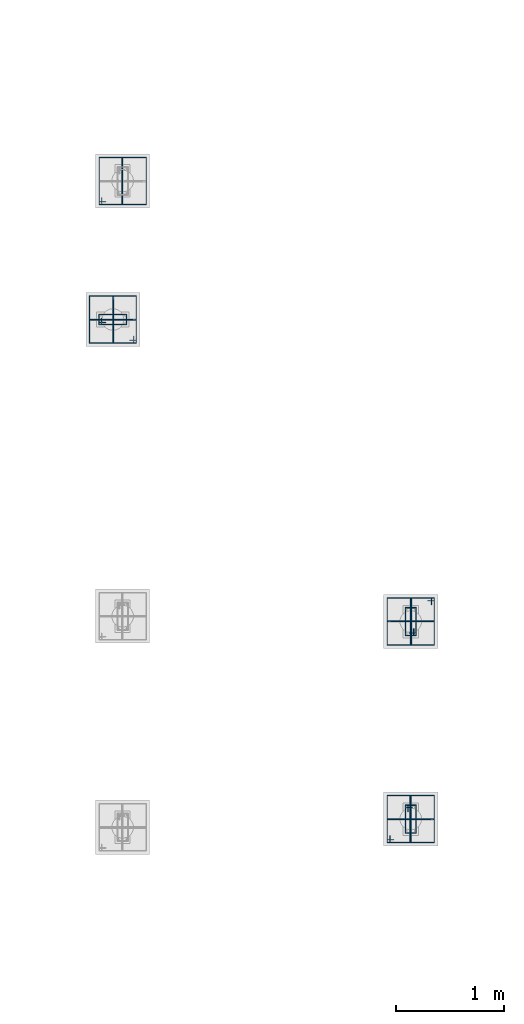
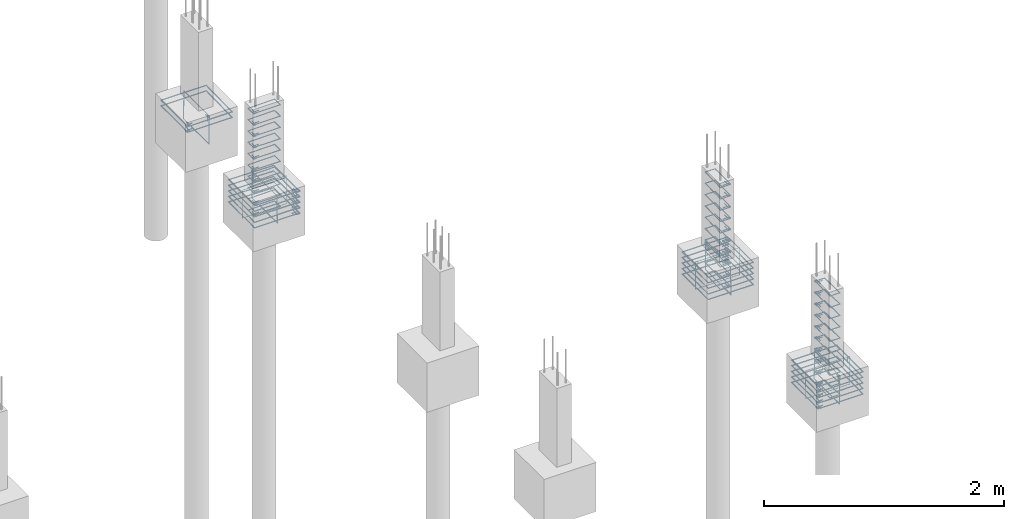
# One storey, part 75 of 119: 54 reinforcing bars.
"""IFC4 building model written with IfcOpenShell, lengths in centimetres."""

from ifc_helpers import new_model, entity, si_unit, derived_unit, frame, origin_with_axes, place, context, project, spatial, source, transform, mapped, element, save


model = new_model("IFC4")

# Units and contexts
model_context = context("Model", 3, precision=1e-05, world=origin_with_axes(), identifier="Body")
ifc_project = project(units=[si_unit("LENGTHUNIT", "METRE", prefix="CENTI"), si_unit("VOLUMEUNIT", "CUBIC_METRE"), si_unit("AREAUNIT", "SQUARE_METRE"), si_unit("POWERUNIT", "WATT"), si_unit("LUMINOUSFLUXUNIT", "LUMEN"), si_unit("ELECTRICCURRENTUNIT", "AMPERE"), si_unit("PRESSUREUNIT", "PASCAL", prefix="KILO"), si_unit("MASSUNIT", "GRAM", prefix="KILO"), si_unit("PLANEANGLEUNIT", "RADIAN"), derived_unit("VOLUMETRICFLOWRATEUNIT", [(si_unit("LENGTHUNIT", "METRE"), 3), (si_unit("TIMEUNIT", "SECOND"), -1)])], contexts=[model_context])

# Site, building, storey
site_placement = place(None, frame((-4000.0, 0.0, 0.0), z_axis=(0.0, 0.0, 1.0), x_axis=(1.0, 0.0, 0.0)))
site = spatial("IfcSite", under=ifc_project, at=site_placement, Name="PADRÃO")
building_placement = place(site_placement, frame((0.0, 0.0, -14.0)))
building = spatial("IfcBuilding", under=site, at=building_placement, Name="CRECHE PRÉ-ESCOLA TIPO 2")
storey_placement = place(building_placement, origin_with_axes())
storey = spatial("IfcBuildingStorey", under=building, at=storey_placement, Name="FUNDAÇÃO", CompositionType="ELEMENT", Elevation=-14.0)

# Reinforcing bars
shared_shape_1 = source(origin_with_axes(), model_context, "Body", "AdvancedSweptSolid", [
    entity("IfcSweptDiskSolid", entity("IfcCompositeCurve", [entity("IfcCompositeCurveSegment", "CONTINUOUS", True, entity("IfcPolyline", [entity("IfcCartesianPoint", [1103.295, 1411.335, 0.0]), entity("IfcCartesianPoint", [1097.035, 1411.335, 0.0])])), entity("IfcCompositeCurveSegment", "CONTINUOUS", True, entity("IfcPolyline", [entity("IfcCartesianPoint", [1097.035, 1411.335, 0.0]), entity("IfcCartesianPoint", [1097.035, 1408.815, 0.0])])), entity("IfcCompositeCurveSegment", "CONTINUOUS", True, entity("IfcPolyline", [entity("IfcCartesianPoint", [1097.035, 1408.815, 0.0]), entity("IfcCartesianPoint", [1140.405, 1408.815, 0.0])])), entity("IfcCompositeCurveSegment", "CONTINUOUS", True, entity("IfcPolyline", [entity("IfcCartesianPoint", [1140.405, 1408.815, 0.0]), entity("IfcCartesianPoint", [1140.405, 1452.185, 0.63])])), entity("IfcCompositeCurveSegment", "CONTINUOUS", True, entity("IfcPolyline", [entity("IfcCartesianPoint", [1140.405, 1452.185, 0.63]), entity("IfcCartesianPoint", [1097.035, 1452.185, 0.63])])), entity("IfcCompositeCurveSegment", "CONTINUOUS", True, entity("IfcPolyline", [entity("IfcCartesianPoint", [1097.035, 1452.185, 0.63]), entity("IfcCartesianPoint", [1097.035, 1408.815, 0.63])])), entity("IfcCompositeCurveSegment", "CONTINUOUS", True, entity("IfcPolyline", [entity("IfcCartesianPoint", [1097.035, 1408.815, 0.63]), entity("IfcCartesianPoint", [1099.555, 1408.815, 0.63])])), entity("IfcCompositeCurveSegment", "CONTINUOUS", True, entity("IfcPolyline", [entity("IfcCartesianPoint", [1099.555, 1408.815, 0.63]), entity("IfcCartesianPoint", [1099.555, 1415.075, 0.63])]))], False), 0.315),
])
for number, where, z_axis, x_axis, name in (
    (1, (0.0, 0.0, -92.225), (0.0, 0.0, 1.0), (1.0, 0.0, 0.0), "P102 - Blocos (estribos)"),
    (2, (0.0, 0.0, -86.575), (0.0, 0.0, 1.0), (1.0, 0.0, 0.0), "P102 - Blocos (estribos)"),
):
    element("IfcReinforcingBar", number, at=place(storey_placement, frame(where, z_axis=z_axis, x_axis=x_axis)), inside=storey, Name=name, BarLength=0.0, CrossSectionArea=3.1172453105e-05, NominalDiameter=0.63, PredefinedType="MAIN", context=model_context, shape_type="MappedRepresentation", body=[
        mapped(shared_shape_1, transform((0.0, 0.0, 0.0), scale=1.0)),
    ])
shared_shape_2 = source(origin_with_axes(), model_context, "Body", "AdvancedSweptSolid", [
    entity("IfcSweptDiskSolid", entity("IfcCompositeCurve", [entity("IfcCompositeCurveSegment", "CONTINUOUS", True, entity("IfcPolyline", [entity("IfcCartesianPoint", [-15.12, -12.0, 0.0]), entity("IfcCartesianPoint", [-21.12, -12.0, 0.0])])), entity("IfcCompositeCurveSegment", "CONTINUOUS", True, entity("IfcPolyline", [entity("IfcCartesianPoint", [-21.12, -12.0, 0.0]), entity("IfcCartesianPoint", [-21.12, -14.0, 0.0])])), entity("IfcCompositeCurveSegment", "CONTINUOUS", True, entity("IfcPolyline", [entity("IfcCartesianPoint", [-21.12, -14.0, 0.0]), entity("IfcCartesianPoint", [21.12, -14.0, 0.0])])), entity("IfcCompositeCurveSegment", "CONTINUOUS", True, entity("IfcPolyline", [entity("IfcCartesianPoint", [21.12, -14.0, 0.0]), entity("IfcCartesianPoint", [21.12, 14.0, 0.5])])), entity("IfcCompositeCurveSegment", "CONTINUOUS", True, entity("IfcPolyline", [entity("IfcCartesianPoint", [21.12, 14.0, 0.5]), entity("IfcCartesianPoint", [-21.12, 14.0, 0.5])])), entity("IfcCompositeCurveSegment", "CONTINUOUS", True, entity("IfcPolyline", [entity("IfcCartesianPoint", [-21.12, 14.0, 0.5]), entity("IfcCartesianPoint", [-21.12, -14.0, 0.5])])), entity("IfcCompositeCurveSegment", "CONTINUOUS", True, entity("IfcPolyline", [entity("IfcCartesianPoint", [-21.12, -14.0, 0.5]), entity("IfcCartesianPoint", [-19.12, -14.0, 0.5])])), entity("IfcCompositeCurveSegment", "CONTINUOUS", True, entity("IfcPolyline", [entity("IfcCartesianPoint", [-19.12, -14.0, 0.5]), entity("IfcCartesianPoint", [-19.12, -8.0, 0.5])]))], False), 0.25),
])
reinforcing_bar_1_placement = place(storey_placement, frame((1118.72, 1430.5, -97.75), z_axis=(-1.0, 0.0, 0.0), x_axis=(0.0, 1.0, 0.0)))
element("IfcReinforcingBar", 3, at=reinforcing_bar_1_placement, inside=storey, Name="P102 - Blocos (estribos)", BarLength=0.0, CrossSectionArea=1.9634954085e-05, NominalDiameter=0.5, PredefinedType="MAIN", context=model_context, shape_type="MappedRepresentation", body=[
    mapped(shared_shape_2, transform((0.0, 0.0, 0.0), scale=1.0)),
])
shared_shape_3 = source(origin_with_axes(), model_context, "Body", "AdvancedSweptSolid", [
    entity("IfcSweptDiskSolid", entity("IfcCompositeCurve", [entity("IfcCompositeCurveSegment", "CONTINUOUS", True, entity("IfcPolyline", [entity("IfcCartesianPoint", [4.25, 21.75, 0.0]), entity("IfcCartesianPoint", [4.25, 27.75, 0.0])])), entity("IfcCompositeCurveSegment", "CONTINUOUS", True, entity("IfcPolyline", [entity("IfcCartesianPoint", [4.25, 27.75, 0.0]), entity("IfcCartesianPoint", [2.25, 27.75, 0.0])])), entity("IfcCompositeCurveSegment", "CONTINUOUS", True, entity("IfcPolyline", [entity("IfcCartesianPoint", [2.25, 27.75, 0.0]), entity("IfcCartesianPoint", [2.25, 2.25, 0.0])])), entity("IfcCompositeCurveSegment", "CONTINUOUS", True, entity("IfcPolyline", [entity("IfcCartesianPoint", [2.25, 2.25, 0.0]), entity("IfcCartesianPoint", [11.75, 2.25, 0.0])])), entity("IfcCompositeCurveSegment", "CONTINUOUS", True, entity("IfcPolyline", [entity("IfcCartesianPoint", [11.75, 2.25, 0.0]), entity("IfcCartesianPoint", [11.75, 27.75, -0.5])])), entity("IfcCompositeCurveSegment", "CONTINUOUS", True, entity("IfcPolyline", [entity("IfcCartesianPoint", [11.75, 27.75, -0.5]), entity("IfcCartesianPoint", [2.25, 27.75, -0.5])])), entity("IfcCompositeCurveSegment", "CONTINUOUS", True, entity("IfcPolyline", [entity("IfcCartesianPoint", [2.25, 27.75, -0.5]), entity("IfcCartesianPoint", [2.25, 25.75, -0.5])])), entity("IfcCompositeCurveSegment", "CONTINUOUS", True, entity("IfcPolyline", [entity("IfcCartesianPoint", [2.25, 25.75, -0.5]), entity("IfcCartesianPoint", [8.25, 25.75, -0.5])]))], False), 0.25),
])
for number, where, z_axis, x_axis, name in (
    (4, (1377.84, 826.1, -28.75), (0.0, 0.0, 1.0), (1.0, 0.0, 0.0), "P127 - Estribo"),
    (5, (1377.84, 826.1, -17.25), (0.0, 0.0, 1.0), (1.0, 0.0, 0.0), "P127 - Estribo"),
    (6, (1377.84, 826.1, -5.75), (0.0, 0.0, 1.0), (1.0, 0.0, 0.0), "P127 - Estribo"),
    (7, (1377.84, 826.1, -109.25), (0.0, 0.0, 1.0), (1.0, 0.0, 0.0), "P127 - Estribo"),
    (8, (1377.84, 826.1, -97.75), (0.0, 0.0, 1.0), (1.0, 0.0, 0.0), "P127 - Estribo"),
    (9, (1377.84, 826.1, -86.25), (0.0, 0.0, 1.0), (1.0, 0.0, 0.0), "P127 - Estribo"),
    (10, (1377.84, 826.1, -74.75), (0.0, 0.0, 1.0), (1.0, 0.0, 0.0), "P127 - Estribo"),
    (11, (1377.84, 826.1, -63.25), (0.0, 0.0, 1.0), (1.0, 0.0, 0.0), "P127 - Estribo"),
    (12, (1377.84, 826.1, -51.75), (0.0, 0.0, 1.0), (1.0, 0.0, 0.0), "P127 - Estribo"),
    (13, (1377.84, 826.1, -40.25), (0.0, 0.0, 1.0), (1.0, 0.0, 0.0), "P127 - Estribo"),
):
    element("IfcReinforcingBar", number, at=place(storey_placement, frame(where, z_axis=z_axis, x_axis=x_axis)), inside=storey, Name=name, BarLength=0.0, CrossSectionArea=1.9634954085e-05, NominalDiameter=0.5, PredefinedType="MAIN", context=model_context, shape_type="MappedRepresentation", body=[
        mapped(shared_shape_3, transform((0.0, 0.0, 0.0), scale=1.0)),
    ])
shared_shape_4 = source(origin_with_axes(), model_context, "Body", "AdvancedSweptSolid", [
    entity("IfcSweptDiskSolid", entity("IfcCompositeCurve", [entity("IfcCompositeCurveSegment", "CONTINUOUS", True, entity("IfcPolyline", [entity("IfcCartesianPoint", [1369.415, 821.935, 0.0]), entity("IfcCartesianPoint", [1363.155, 821.935, 0.0])])), entity("IfcCompositeCurveSegment", "CONTINUOUS", True, entity("IfcPolyline", [entity("IfcCartesianPoint", [1363.155, 821.935, 0.0]), entity("IfcCartesianPoint", [1363.155, 819.415, 0.0])])), entity("IfcCompositeCurveSegment", "CONTINUOUS", True, entity("IfcPolyline", [entity("IfcCartesianPoint", [1363.155, 819.415, 0.0]), entity("IfcCartesianPoint", [1406.525, 819.415, 0.0])])), entity("IfcCompositeCurveSegment", "CONTINUOUS", True, entity("IfcPolyline", [entity("IfcCartesianPoint", [1406.525, 819.415, 0.0]), entity("IfcCartesianPoint", [1406.525, 862.785, 0.63])])), entity("IfcCompositeCurveSegment", "CONTINUOUS", True, entity("IfcPolyline", [entity("IfcCartesianPoint", [1406.525, 862.785, 0.63]), entity("IfcCartesianPoint", [1363.155, 862.785, 0.63])])), entity("IfcCompositeCurveSegment", "CONTINUOUS", True, entity("IfcPolyline", [entity("IfcCartesianPoint", [1363.155, 862.785, 0.63]), entity("IfcCartesianPoint", [1363.155, 819.415, 0.63])])), entity("IfcCompositeCurveSegment", "CONTINUOUS", True, entity("IfcPolyline", [entity("IfcCartesianPoint", [1363.155, 819.415, 0.63]), entity("IfcCartesianPoint", [1365.675, 819.415, 0.63])])), entity("IfcCompositeCurveSegment", "CONTINUOUS", True, entity("IfcPolyline", [entity("IfcCartesianPoint", [1365.675, 819.415, 0.63]), entity("IfcCartesianPoint", [1365.675, 825.675, 0.63])]))], False), 0.315),
])
for number, where, z_axis, x_axis, name in (
    (14, (0.0, 0.0, -103.525), (0.0, 0.0, 1.0), (1.0, 0.0, 0.0), "P127 - Blocos (estribos)"),
    (15, (0.0, 0.0, -109.175), (0.0, 0.0, 1.0), (1.0, 0.0, 0.0), "P127 - Blocos (estribos)"),
    (16, (0.0, 0.0, -86.575), (0.0, 0.0, 1.0), (1.0, 0.0, 0.0), "P127 - Blocos (estribos)"),
    (17, (0.0, 0.0, -92.225), (0.0, 0.0, 1.0), (1.0, 0.0, 0.0), "P127 - Blocos (estribos)"),
    (18, (0.0, 0.0, -97.875), (0.0, 0.0, 1.0), (1.0, 0.0, 0.0), "P127 - Blocos (estribos)"),
):
    element("IfcReinforcingBar", number, at=place(storey_placement, frame(where, z_axis=z_axis, x_axis=x_axis)), inside=storey, Name=name, BarLength=0.0, CrossSectionArea=3.1172453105e-05, NominalDiameter=0.63, PredefinedType="MAIN", context=model_context, shape_type="MappedRepresentation", body=[
        mapped(shared_shape_4, transform((0.0, 0.0, 0.0), scale=1.0)),
    ])
shared_shape_5 = source(origin_with_axes(), model_context, "Body", "AdvancedSweptSolid", [
    entity("IfcSweptDiskSolid", entity("IfcCompositeCurve", [entity("IfcCompositeCurveSegment", "CONTINUOUS", True, entity("IfcPolyline", [entity("IfcCartesianPoint", [-15.12, -12.0, 0.0]), entity("IfcCartesianPoint", [-21.12, -12.0, 0.0])])), entity("IfcCompositeCurveSegment", "CONTINUOUS", True, entity("IfcPolyline", [entity("IfcCartesianPoint", [-21.12, -12.0, 0.0]), entity("IfcCartesianPoint", [-21.12, -14.0, 0.0])])), entity("IfcCompositeCurveSegment", "CONTINUOUS", True, entity("IfcPolyline", [entity("IfcCartesianPoint", [-21.12, -14.0, 0.0]), entity("IfcCartesianPoint", [21.12, -14.0, 0.0])])), entity("IfcCompositeCurveSegment", "CONTINUOUS", True, entity("IfcPolyline", [entity("IfcCartesianPoint", [21.12, -14.0, 0.0]), entity("IfcCartesianPoint", [21.12, 14.0, 0.5])])), entity("IfcCompositeCurveSegment", "CONTINUOUS", True, entity("IfcPolyline", [entity("IfcCartesianPoint", [21.12, 14.0, 0.5]), entity("IfcCartesianPoint", [-21.12, 14.0, 0.5])])), entity("IfcCompositeCurveSegment", "CONTINUOUS", True, entity("IfcPolyline", [entity("IfcCartesianPoint", [-21.12, 14.0, 0.5]), entity("IfcCartesianPoint", [-21.12, -14.0, 0.5])])), entity("IfcCompositeCurveSegment", "CONTINUOUS", True, entity("IfcPolyline", [entity("IfcCartesianPoint", [-21.12, -14.0, 0.5]), entity("IfcCartesianPoint", [-19.12, -14.0, 0.5])])), entity("IfcCompositeCurveSegment", "CONTINUOUS", True, entity("IfcPolyline", [entity("IfcCartesianPoint", [-19.12, -14.0, 0.5]), entity("IfcCartesianPoint", [-19.12, -8.0, 0.5])]))], False), 0.25),
])
reinforcing_bar_2_placement = place(storey_placement, frame((1384.84, 841.1, -97.75), z_axis=(-1.0, 0.0, 0.0), x_axis=(0.0, 1.0, 0.0)))
element("IfcReinforcingBar", 19, at=reinforcing_bar_2_placement, inside=storey, Name="P127 - Blocos (estribos)", BarLength=0.0, CrossSectionArea=1.9634954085e-05, NominalDiameter=0.5, PredefinedType="MAIN", context=model_context, shape_type="MappedRepresentation", body=[
    mapped(shared_shape_5, transform((0.0, 0.0, 0.0), scale=1.0)),
])
shared_shape_6 = source(origin_with_axes(), model_context, "Body", "AdvancedSweptSolid", [
    entity("IfcSweptDiskSolid", entity("IfcCompositeCurve", [entity("IfcCompositeCurveSegment", "CONTINUOUS", True, entity("IfcPolyline", [entity("IfcCartesianPoint", [-15.12, -12.0, 0.0]), entity("IfcCartesianPoint", [-21.12, -12.0, 0.0])])), entity("IfcCompositeCurveSegment", "CONTINUOUS", True, entity("IfcPolyline", [entity("IfcCartesianPoint", [-21.12, -12.0, 0.0]), entity("IfcCartesianPoint", [-21.12, -14.0, 0.0])])), entity("IfcCompositeCurveSegment", "CONTINUOUS", True, entity("IfcPolyline", [entity("IfcCartesianPoint", [-21.12, -14.0, 0.0]), entity("IfcCartesianPoint", [21.12, -14.0, 0.0])])), entity("IfcCompositeCurveSegment", "CONTINUOUS", True, entity("IfcPolyline", [entity("IfcCartesianPoint", [21.12, -14.0, 0.0]), entity("IfcCartesianPoint", [21.12, 14.0, 0.5])])), entity("IfcCompositeCurveSegment", "CONTINUOUS", True, entity("IfcPolyline", [entity("IfcCartesianPoint", [21.12, 14.0, 0.5]), entity("IfcCartesianPoint", [-21.12, 14.0, 0.5])])), entity("IfcCompositeCurveSegment", "CONTINUOUS", True, entity("IfcPolyline", [entity("IfcCartesianPoint", [-21.12, 14.0, 0.5]), entity("IfcCartesianPoint", [-21.12, -14.0, 0.5])])), entity("IfcCompositeCurveSegment", "CONTINUOUS", True, entity("IfcPolyline", [entity("IfcCartesianPoint", [-21.12, -14.0, 0.5]), entity("IfcCartesianPoint", [-19.12, -14.0, 0.5])])), entity("IfcCompositeCurveSegment", "CONTINUOUS", True, entity("IfcPolyline", [entity("IfcCartesianPoint", [-19.12, -14.0, 0.5]), entity("IfcCartesianPoint", [-19.12, -8.0, 0.5])]))], False), 0.25),
])
reinforcing_bar_3_placement = place(storey_placement, frame((1384.84, 841.1, -97.75), z_axis=(0.0, -1.0, 0.0), x_axis=(-1.0, 0.0, 0.0)))
element("IfcReinforcingBar", 20, at=reinforcing_bar_3_placement, inside=storey, Name="P127 - Blocos (estribos)", BarLength=0.0, CrossSectionArea=1.9634954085e-05, NominalDiameter=0.5, PredefinedType="MAIN", context=model_context, shape_type="MappedRepresentation", body=[
    mapped(shared_shape_6, transform((0.0, 0.0, 0.0), scale=1.0)),
])
shared_shape_7 = source(origin_with_axes(), model_context, "Body", "AdvancedSweptSolid", [
    entity("IfcSweptDiskSolid", entity("IfcCompositeCurve", [entity("IfcCompositeCurveSegment", "CONTINUOUS", True, entity("IfcPolyline", [entity("IfcCartesianPoint", [4.25, 21.75, 0.0]), entity("IfcCartesianPoint", [4.25, 27.75, 0.0])])), entity("IfcCompositeCurveSegment", "CONTINUOUS", True, entity("IfcPolyline", [entity("IfcCartesianPoint", [4.25, 27.75, 0.0]), entity("IfcCartesianPoint", [2.25, 27.75, 0.0])])), entity("IfcCompositeCurveSegment", "CONTINUOUS", True, entity("IfcPolyline", [entity("IfcCartesianPoint", [2.25, 27.75, 0.0]), entity("IfcCartesianPoint", [2.25, 2.25, 0.0])])), entity("IfcCompositeCurveSegment", "CONTINUOUS", True, entity("IfcPolyline", [entity("IfcCartesianPoint", [2.25, 2.25, 0.0]), entity("IfcCartesianPoint", [11.75, 2.25, 0.0])])), entity("IfcCompositeCurveSegment", "CONTINUOUS", True, entity("IfcPolyline", [entity("IfcCartesianPoint", [11.75, 2.25, 0.0]), entity("IfcCartesianPoint", [11.75, 27.75, -0.5])])), entity("IfcCompositeCurveSegment", "CONTINUOUS", True, entity("IfcPolyline", [entity("IfcCartesianPoint", [11.75, 27.75, -0.5]), entity("IfcCartesianPoint", [2.25, 27.75, -0.5])])), entity("IfcCompositeCurveSegment", "CONTINUOUS", True, entity("IfcPolyline", [entity("IfcCartesianPoint", [2.25, 27.75, -0.5]), entity("IfcCartesianPoint", [2.25, 25.75, -0.5])])), entity("IfcCompositeCurveSegment", "CONTINUOUS", True, entity("IfcPolyline", [entity("IfcCartesianPoint", [2.25, 25.75, -0.5]), entity("IfcCartesianPoint", [8.25, 25.75, -0.5])]))], False), 0.25),
])
for number, where, z_axis, x_axis, name in (
    (21, (1124.72, 1295.5, -28.75), (0.0, 0.0, 1.0), (0.0, 1.0, 0.0), "P109 - Estribo"),
    (22, (1124.72, 1295.5, -17.25), (0.0, 0.0, 1.0), (0.0, 1.0, 0.0), "P109 - Estribo"),
    (23, (1124.72, 1295.5, -5.75), (0.0, 0.0, 1.0), (0.0, 1.0, 0.0), "P109 - Estribo"),
    (24, (1124.72, 1295.5, -109.25), (0.0, 0.0, 1.0), (0.0, 1.0, 0.0), "P109 - Estribo"),
    (25, (1124.72, 1295.5, -74.75), (0.0, 0.0, 1.0), (0.0, 1.0, 0.0), "P109 - Estribo"),
    (26, (1124.72, 1295.5, -40.25), (0.0, 0.0, 1.0), (0.0, 1.0, 0.0), "P109 - Estribo"),
    (27, (1124.72, 1295.5, -63.25), (0.0, 0.0, 1.0), (0.0, 1.0, 0.0), "P109 - Estribo"),
    (28, (1124.72, 1295.5, -51.75), (0.0, 0.0, 1.0), (0.0, 1.0, 0.0), "P109 - Estribo"),
    (29, (1124.72, 1295.5, -97.75), (0.0, 0.0, 1.0), (0.0, 1.0, 0.0), "P109 - Estribo"),
    (30, (1124.72, 1295.5, -86.25), (0.0, 0.0, 1.0), (0.0, 1.0, 0.0), "P109 - Estribo"),
):
    element("IfcReinforcingBar", number, at=place(storey_placement, frame(where, z_axis=z_axis, x_axis=x_axis)), inside=storey, Name=name, BarLength=0.0, CrossSectionArea=1.9634954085e-05, NominalDiameter=0.5, PredefinedType="MAIN", context=model_context, shape_type="MappedRepresentation", body=[
        mapped(shared_shape_7, transform((0.0, 0.0, 0.0), scale=1.0)),
    ])
shared_shape_8 = source(origin_with_axes(), model_context, "Body", "AdvancedSweptSolid", [
    entity("IfcSweptDiskSolid", entity("IfcCompositeCurve", [entity("IfcCompositeCurveSegment", "CONTINUOUS", True, entity("IfcPolyline", [entity("IfcCartesianPoint", [1128.885, 1287.075, 0.0]), entity("IfcCartesianPoint", [1128.885, 1280.815, 0.0])])), entity("IfcCompositeCurveSegment", "CONTINUOUS", True, entity("IfcPolyline", [entity("IfcCartesianPoint", [1128.885, 1280.815, 0.0]), entity("IfcCartesianPoint", [1131.405, 1280.815, 0.0])])), entity("IfcCompositeCurveSegment", "CONTINUOUS", True, entity("IfcPolyline", [entity("IfcCartesianPoint", [1131.405, 1280.815, 0.0]), entity("IfcCartesianPoint", [1131.405, 1324.185, 0.0])])), entity("IfcCompositeCurveSegment", "CONTINUOUS", True, entity("IfcPolyline", [entity("IfcCartesianPoint", [1131.405, 1324.185, 0.0]), entity("IfcCartesianPoint", [1088.035, 1324.185, 0.63])])), entity("IfcCompositeCurveSegment", "CONTINUOUS", True, entity("IfcPolyline", [entity("IfcCartesianPoint", [1088.035, 1324.185, 0.63]), entity("IfcCartesianPoint", [1088.035, 1280.815, 0.63])])), entity("IfcCompositeCurveSegment", "CONTINUOUS", True, entity("IfcPolyline", [entity("IfcCartesianPoint", [1088.035, 1280.815, 0.63]), entity("IfcCartesianPoint", [1131.405, 1280.815, 0.63])])), entity("IfcCompositeCurveSegment", "CONTINUOUS", True, entity("IfcPolyline", [entity("IfcCartesianPoint", [1131.405, 1280.815, 0.63]), entity("IfcCartesianPoint", [1131.405, 1283.335, 0.63])])), entity("IfcCompositeCurveSegment", "CONTINUOUS", True, entity("IfcPolyline", [entity("IfcCartesianPoint", [1131.405, 1283.335, 0.63]), entity("IfcCartesianPoint", [1125.145, 1283.335, 0.63])]))], False), 0.315),
])
for number, where, z_axis, x_axis, name in (
    (31, (0.0, 0.0, -86.575), (0.0, 0.0, 1.0), (1.0, 0.0, 0.0), "P109 - Blocos (estribos)"),
    (32, (0.0, 0.0, -109.175), (0.0, 0.0, 1.0), (1.0, 0.0, 0.0), "P109 - Blocos (estribos)"),
    (33, (0.0, 0.0, -97.875), (0.0, 0.0, 1.0), (1.0, 0.0, 0.0), "P109 - Blocos (estribos)"),
    (34, (0.0, 0.0, -92.225), (0.0, 0.0, 1.0), (1.0, 0.0, 0.0), "P109 - Blocos (estribos)"),
    (35, (0.0, 0.0, -103.525), (0.0, 0.0, 1.0), (1.0, 0.0, 0.0), "P109 - Blocos (estribos)"),
):
    element("IfcReinforcingBar", number, at=place(storey_placement, frame(where, z_axis=z_axis, x_axis=x_axis)), inside=storey, Name=name, BarLength=0.0, CrossSectionArea=3.1172453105e-05, NominalDiameter=0.63, PredefinedType="MAIN", context=model_context, shape_type="MappedRepresentation", body=[
        mapped(shared_shape_8, transform((0.0, 0.0, 0.0), scale=1.0)),
    ])
shared_shape_9 = source(origin_with_axes(), model_context, "Body", "AdvancedSweptSolid", [
    entity("IfcSweptDiskSolid", entity("IfcCompositeCurve", [entity("IfcCompositeCurveSegment", "CONTINUOUS", True, entity("IfcPolyline", [entity("IfcCartesianPoint", [-15.12, -12.0, 0.0]), entity("IfcCartesianPoint", [-21.12, -12.0, 0.0])])), entity("IfcCompositeCurveSegment", "CONTINUOUS", True, entity("IfcPolyline", [entity("IfcCartesianPoint", [-21.12, -12.0, 0.0]), entity("IfcCartesianPoint", [-21.12, -14.0, 0.0])])), entity("IfcCompositeCurveSegment", "CONTINUOUS", True, entity("IfcPolyline", [entity("IfcCartesianPoint", [-21.12, -14.0, 0.0]), entity("IfcCartesianPoint", [21.12, -14.0, 0.0])])), entity("IfcCompositeCurveSegment", "CONTINUOUS", True, entity("IfcPolyline", [entity("IfcCartesianPoint", [21.12, -14.0, 0.0]), entity("IfcCartesianPoint", [21.12, 14.0, 0.5])])), entity("IfcCompositeCurveSegment", "CONTINUOUS", True, entity("IfcPolyline", [entity("IfcCartesianPoint", [21.12, 14.0, 0.5]), entity("IfcCartesianPoint", [-21.12, 14.0, 0.5])])), entity("IfcCompositeCurveSegment", "CONTINUOUS", True, entity("IfcPolyline", [entity("IfcCartesianPoint", [-21.12, 14.0, 0.5]), entity("IfcCartesianPoint", [-21.12, -14.0, 0.5])])), entity("IfcCompositeCurveSegment", "CONTINUOUS", True, entity("IfcPolyline", [entity("IfcCartesianPoint", [-21.12, -14.0, 0.5]), entity("IfcCartesianPoint", [-19.12, -14.0, 0.5])])), entity("IfcCompositeCurveSegment", "CONTINUOUS", True, entity("IfcPolyline", [entity("IfcCartesianPoint", [-19.12, -14.0, 0.5]), entity("IfcCartesianPoint", [-19.12, -8.0, 0.5])]))], False), 0.25),
])
reinforcing_bar_4_placement = place(storey_placement, frame((1109.72, 1302.5, -97.75), z_axis=(0.0, -1.0, 0.0), x_axis=(-1.0, 0.0, 0.0)))
element("IfcReinforcingBar", 36, at=reinforcing_bar_4_placement, inside=storey, Name="P109 - Blocos (estribos)", BarLength=0.0, CrossSectionArea=1.9634954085e-05, NominalDiameter=0.5, PredefinedType="MAIN", context=model_context, shape_type="MappedRepresentation", body=[
    mapped(shared_shape_9, transform((0.0, 0.0, 0.0), scale=1.0)),
])
shared_shape_10 = source(origin_with_axes(), model_context, "Body", "AdvancedSweptSolid", [
    entity("IfcSweptDiskSolid", entity("IfcCompositeCurve", [entity("IfcCompositeCurveSegment", "CONTINUOUS", True, entity("IfcPolyline", [entity("IfcCartesianPoint", [-15.12, -12.0, 0.0]), entity("IfcCartesianPoint", [-21.12, -12.0, 0.0])])), entity("IfcCompositeCurveSegment", "CONTINUOUS", True, entity("IfcPolyline", [entity("IfcCartesianPoint", [-21.12, -12.0, 0.0]), entity("IfcCartesianPoint", [-21.12, -14.0, 0.0])])), entity("IfcCompositeCurveSegment", "CONTINUOUS", True, entity("IfcPolyline", [entity("IfcCartesianPoint", [-21.12, -14.0, 0.0]), entity("IfcCartesianPoint", [21.12, -14.0, 0.0])])), entity("IfcCompositeCurveSegment", "CONTINUOUS", True, entity("IfcPolyline", [entity("IfcCartesianPoint", [21.12, -14.0, 0.0]), entity("IfcCartesianPoint", [21.12, 14.0, 0.5])])), entity("IfcCompositeCurveSegment", "CONTINUOUS", True, entity("IfcPolyline", [entity("IfcCartesianPoint", [21.12, 14.0, 0.5]), entity("IfcCartesianPoint", [-21.12, 14.0, 0.5])])), entity("IfcCompositeCurveSegment", "CONTINUOUS", True, entity("IfcPolyline", [entity("IfcCartesianPoint", [-21.12, 14.0, 0.5]), entity("IfcCartesianPoint", [-21.12, -14.0, 0.5])])), entity("IfcCompositeCurveSegment", "CONTINUOUS", True, entity("IfcPolyline", [entity("IfcCartesianPoint", [-21.12, -14.0, 0.5]), entity("IfcCartesianPoint", [-19.12, -14.0, 0.5])])), entity("IfcCompositeCurveSegment", "CONTINUOUS", True, entity("IfcPolyline", [entity("IfcCartesianPoint", [-19.12, -14.0, 0.5]), entity("IfcCartesianPoint", [-19.12, -8.0, 0.5])]))], False), 0.25),
])
reinforcing_bar_5_placement = place(storey_placement, frame((1109.72, 1302.5, -97.75), z_axis=(1.0, 0.0, 0.0), x_axis=(0.0, -1.0, 0.0)))
element("IfcReinforcingBar", 37, at=reinforcing_bar_5_placement, inside=storey, Name="P109 - Blocos (estribos)", BarLength=0.0, CrossSectionArea=1.9634954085e-05, NominalDiameter=0.5, PredefinedType="MAIN", context=model_context, shape_type="MappedRepresentation", body=[
    mapped(shared_shape_10, transform((0.0, 0.0, 0.0), scale=1.0)),
])
shared_shape_11 = source(origin_with_axes(), model_context, "Body", "AdvancedSweptSolid", [
    entity("IfcSweptDiskSolid", entity("IfcCompositeCurve", [entity("IfcCompositeCurveSegment", "CONTINUOUS", True, entity("IfcPolyline", [entity("IfcCartesianPoint", [4.25, 21.75, 0.0]), entity("IfcCartesianPoint", [4.25, 27.75, 0.0])])), entity("IfcCompositeCurveSegment", "CONTINUOUS", True, entity("IfcPolyline", [entity("IfcCartesianPoint", [4.25, 27.75, 0.0]), entity("IfcCartesianPoint", [2.25, 27.75, 0.0])])), entity("IfcCompositeCurveSegment", "CONTINUOUS", True, entity("IfcPolyline", [entity("IfcCartesianPoint", [2.25, 27.75, 0.0]), entity("IfcCartesianPoint", [2.25, 2.25, 0.0])])), entity("IfcCompositeCurveSegment", "CONTINUOUS", True, entity("IfcPolyline", [entity("IfcCartesianPoint", [2.25, 2.25, 0.0]), entity("IfcCartesianPoint", [11.75, 2.25, 0.0])])), entity("IfcCompositeCurveSegment", "CONTINUOUS", True, entity("IfcPolyline", [entity("IfcCartesianPoint", [11.75, 2.25, 0.0]), entity("IfcCartesianPoint", [11.75, 27.75, -0.5])])), entity("IfcCompositeCurveSegment", "CONTINUOUS", True, entity("IfcPolyline", [entity("IfcCartesianPoint", [11.75, 27.75, -0.5]), entity("IfcCartesianPoint", [2.25, 27.75, -0.5])])), entity("IfcCompositeCurveSegment", "CONTINUOUS", True, entity("IfcPolyline", [entity("IfcCartesianPoint", [2.25, 27.75, -0.5]), entity("IfcCartesianPoint", [2.25, 25.75, -0.5])])), entity("IfcCompositeCurveSegment", "CONTINUOUS", True, entity("IfcPolyline", [entity("IfcCartesianPoint", [2.25, 25.75, -0.5]), entity("IfcCartesianPoint", [8.25, 25.75, -0.5])]))], False), 0.25),
])
for number, where, z_axis, x_axis, name in (
    (38, (1391.84, 1038.51, -28.75), (0.0, 0.0, 1.0), (-1.0, 0.0, 0.0), "P120 - Estribo"),
    (39, (1391.84, 1038.51, -109.25), (0.0, 0.0, 1.0), (-1.0, 0.0, 0.0), "P120 - Estribo"),
    (40, (1391.84, 1038.51, -97.75), (0.0, 0.0, 1.0), (-1.0, 0.0, 0.0), "P120 - Estribo"),
    (41, (1391.84, 1038.51, -86.25), (0.0, 0.0, 1.0), (-1.0, 0.0, 0.0), "P120 - Estribo"),
    (42, (1391.84, 1038.51, -74.75), (0.0, 0.0, 1.0), (-1.0, 0.0, 0.0), "P120 - Estribo"),
    (43, (1391.84, 1038.51, -17.25), (0.0, 0.0, 1.0), (-1.0, 0.0, 0.0), "P120 - Estribo"),
    (44, (1391.84, 1038.51, -51.75), (0.0, 0.0, 1.0), (-1.0, 0.0, 0.0), "P120 - Estribo"),
    (45, (1391.84, 1038.51, -40.25), (0.0, 0.0, 1.0), (-1.0, 0.0, 0.0), "P120 - Estribo"),
    (46, (1391.84, 1038.51, -63.25), (0.0, 0.0, 1.0), (-1.0, 0.0, 0.0), "P120 - Estribo"),
    (47, (1391.84, 1038.51, -5.75), (0.0, 0.0, 1.0), (-1.0, 0.0, 0.0), "P120 - Estribo"),
):
    element("IfcReinforcingBar", number, at=place(storey_placement, frame(where, z_axis=z_axis, x_axis=x_axis)), inside=storey, Name=name, BarLength=0.0, CrossSectionArea=1.9634954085e-05, NominalDiameter=0.5, PredefinedType="MAIN", context=model_context, shape_type="MappedRepresentation", body=[
        mapped(shared_shape_11, transform((0.0, 0.0, 0.0), scale=1.0)),
    ])
shared_shape_12 = source(origin_with_axes(), model_context, "Body", "AdvancedSweptSolid", [
    entity("IfcSweptDiskSolid", entity("IfcCompositeCurve", [entity("IfcCompositeCurveSegment", "CONTINUOUS", True, entity("IfcPolyline", [entity("IfcCartesianPoint", [1400.265, 1042.675, 0.0]), entity("IfcCartesianPoint", [1406.525, 1042.675, 0.0])])), entity("IfcCompositeCurveSegment", "CONTINUOUS", True, entity("IfcPolyline", [entity("IfcCartesianPoint", [1406.525, 1042.675, 0.0]), entity("IfcCartesianPoint", [1406.525, 1045.195, 0.0])])), entity("IfcCompositeCurveSegment", "CONTINUOUS", True, entity("IfcPolyline", [entity("IfcCartesianPoint", [1406.525, 1045.195, 0.0]), entity("IfcCartesianPoint", [1363.155, 1045.195, 0.0])])), entity("IfcCompositeCurveSegment", "CONTINUOUS", True, entity("IfcPolyline", [entity("IfcCartesianPoint", [1363.155, 1045.195, 0.0]), entity("IfcCartesianPoint", [1363.155, 1001.825, 0.63])])), entity("IfcCompositeCurveSegment", "CONTINUOUS", True, entity("IfcPolyline", [entity("IfcCartesianPoint", [1363.155, 1001.825, 0.63]), entity("IfcCartesianPoint", [1406.525, 1001.825, 0.63])])), entity("IfcCompositeCurveSegment", "CONTINUOUS", True, entity("IfcPolyline", [entity("IfcCartesianPoint", [1406.525, 1001.825, 0.63]), entity("IfcCartesianPoint", [1406.525, 1045.195, 0.63])])), entity("IfcCompositeCurveSegment", "CONTINUOUS", True, entity("IfcPolyline", [entity("IfcCartesianPoint", [1406.525, 1045.195, 0.63]), entity("IfcCartesianPoint", [1404.005, 1045.195, 0.63])])), entity("IfcCompositeCurveSegment", "CONTINUOUS", True, entity("IfcPolyline", [entity("IfcCartesianPoint", [1404.005, 1045.195, 0.63]), entity("IfcCartesianPoint", [1404.005, 1038.935, 0.63])]))], False), 0.315),
])
for number, where, z_axis, x_axis, name in (
    (48, (0.0, 0.0, -86.575), (0.0, 0.0, 1.0), (1.0, 0.0, 0.0), "P120 - Blocos (estribos)"),
    (49, (0.0, 0.0, -92.225), (0.0, 0.0, 1.0), (1.0, 0.0, 0.0), "P120 - Blocos (estribos)"),
    (50, (0.0, 0.0, -97.875), (0.0, 0.0, 1.0), (1.0, 0.0, 0.0), "P120 - Blocos (estribos)"),
    (51, (0.0, 0.0, -103.525), (0.0, 0.0, 1.0), (1.0, 0.0, 0.0), "P120 - Blocos (estribos)"),
    (52, (0.0, 0.0, -109.175), (0.0, 0.0, 1.0), (1.0, 0.0, 0.0), "P120 - Blocos (estribos)"),
):
    element("IfcReinforcingBar", number, at=place(storey_placement, frame(where, z_axis=z_axis, x_axis=x_axis)), inside=storey, Name=name, BarLength=0.0, CrossSectionArea=3.1172453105e-05, NominalDiameter=0.63, PredefinedType="MAIN", context=model_context, shape_type="MappedRepresentation", body=[
        mapped(shared_shape_12, transform((0.0, 0.0, 0.0), scale=1.0)),
    ])
shared_shape_13 = source(origin_with_axes(), model_context, "Body", "AdvancedSweptSolid", [
    entity("IfcSweptDiskSolid", entity("IfcCompositeCurve", [entity("IfcCompositeCurveSegment", "CONTINUOUS", True, entity("IfcPolyline", [entity("IfcCartesianPoint", [-15.12, -12.0, 0.0]), entity("IfcCartesianPoint", [-21.12, -12.0, 0.0])])), entity("IfcCompositeCurveSegment", "CONTINUOUS", True, entity("IfcPolyline", [entity("IfcCartesianPoint", [-21.12, -12.0, 0.0]), entity("IfcCartesianPoint", [-21.12, -14.0, 0.0])])), entity("IfcCompositeCurveSegment", "CONTINUOUS", True, entity("IfcPolyline", [entity("IfcCartesianPoint", [-21.12, -14.0, 0.0]), entity("IfcCartesianPoint", [21.12, -14.0, 0.0])])), entity("IfcCompositeCurveSegment", "CONTINUOUS", True, entity("IfcPolyline", [entity("IfcCartesianPoint", [21.12, -14.0, 0.0]), entity("IfcCartesianPoint", [21.12, 14.0, 0.5])])), entity("IfcCompositeCurveSegment", "CONTINUOUS", True, entity("IfcPolyline", [entity("IfcCartesianPoint", [21.12, 14.0, 0.5]), entity("IfcCartesianPoint", [-21.12, 14.0, 0.5])])), entity("IfcCompositeCurveSegment", "CONTINUOUS", True, entity("IfcPolyline", [entity("IfcCartesianPoint", [-21.12, 14.0, 0.5]), entity("IfcCartesianPoint", [-21.12, -14.0, 0.5])])), entity("IfcCompositeCurveSegment", "CONTINUOUS", True, entity("IfcPolyline", [entity("IfcCartesianPoint", [-21.12, -14.0, 0.5]), entity("IfcCartesianPoint", [-19.12, -14.0, 0.5])])), entity("IfcCompositeCurveSegment", "CONTINUOUS", True, entity("IfcPolyline", [entity("IfcCartesianPoint", [-19.12, -14.0, 0.5]), entity("IfcCartesianPoint", [-19.12, -8.0, 0.5])]))], False), 0.25),
])
reinforcing_bar_6_placement = place(storey_placement, frame((1384.84, 1023.51, -97.75), z_axis=(1.0, 0.0, 0.0), x_axis=(0.0, -1.0, 0.0)))
element("IfcReinforcingBar", 53, at=reinforcing_bar_6_placement, inside=storey, Name="P120 - Blocos (estribos)", BarLength=0.0, CrossSectionArea=1.9634954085e-05, NominalDiameter=0.5, PredefinedType="MAIN", context=model_context, shape_type="MappedRepresentation", body=[
    mapped(shared_shape_13, transform((0.0, 0.0, 0.0), scale=1.0)),
])
shared_shape_14 = source(origin_with_axes(), model_context, "Body", "AdvancedSweptSolid", [
    entity("IfcSweptDiskSolid", entity("IfcCompositeCurve", [entity("IfcCompositeCurveSegment", "CONTINUOUS", True, entity("IfcPolyline", [entity("IfcCartesianPoint", [-15.12, -12.0, 0.0]), entity("IfcCartesianPoint", [-21.12, -12.0, 0.0])])), entity("IfcCompositeCurveSegment", "CONTINUOUS", True, entity("IfcPolyline", [entity("IfcCartesianPoint", [-21.12, -12.0, 0.0]), entity("IfcCartesianPoint", [-21.12, -14.0, 0.0])])), entity("IfcCompositeCurveSegment", "CONTINUOUS", True, entity("IfcPolyline", [entity("IfcCartesianPoint", [-21.12, -14.0, 0.0]), entity("IfcCartesianPoint", [21.12, -14.0, 0.0])])), entity("IfcCompositeCurveSegment", "CONTINUOUS", True, entity("IfcPolyline", [entity("IfcCartesianPoint", [21.12, -14.0, 0.0]), entity("IfcCartesianPoint", [21.12, 14.0, 0.5])])), entity("IfcCompositeCurveSegment", "CONTINUOUS", True, entity("IfcPolyline", [entity("IfcCartesianPoint", [21.12, 14.0, 0.5]), entity("IfcCartesianPoint", [-21.12, 14.0, 0.5])])), entity("IfcCompositeCurveSegment", "CONTINUOUS", True, entity("IfcPolyline", [entity("IfcCartesianPoint", [-21.12, 14.0, 0.5]), entity("IfcCartesianPoint", [-21.12, -14.0, 0.5])])), entity("IfcCompositeCurveSegment", "CONTINUOUS", True, entity("IfcPolyline", [entity("IfcCartesianPoint", [-21.12, -14.0, 0.5]), entity("IfcCartesianPoint", [-19.12, -14.0, 0.5])])), entity("IfcCompositeCurveSegment", "CONTINUOUS", True, entity("IfcPolyline", [entity("IfcCartesianPoint", [-19.12, -14.0, 0.5]), entity("IfcCartesianPoint", [-19.12, -8.0, 0.5])]))], False), 0.25),
])
reinforcing_bar_7_placement = place(storey_placement, frame((1384.84, 1023.51, -97.75), z_axis=(0.0, 1.0, 0.0), x_axis=(1.0, 0.0, 0.0)))
element("IfcReinforcingBar", 54, at=reinforcing_bar_7_placement, inside=storey, Name="P120 - Blocos (estribos)", BarLength=0.0, CrossSectionArea=1.9634954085e-05, NominalDiameter=0.5, PredefinedType="MAIN", context=model_context, shape_type="MappedRepresentation", body=[
    mapped(shared_shape_14, transform((0.0, 0.0, 0.0), scale=1.0)),
])

save(model, "model.ifc")
